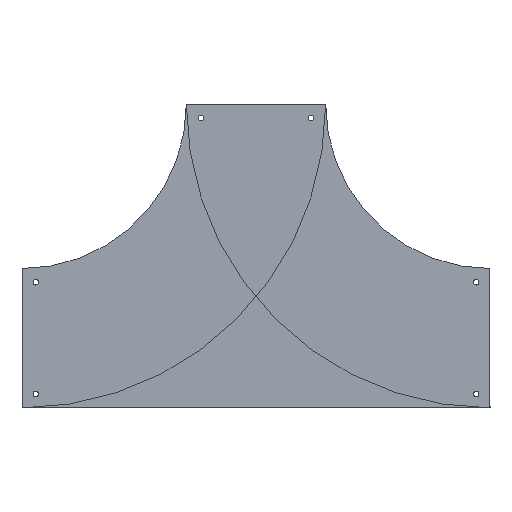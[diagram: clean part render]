
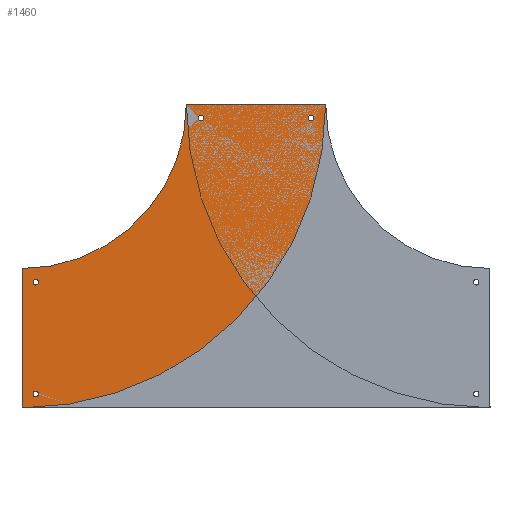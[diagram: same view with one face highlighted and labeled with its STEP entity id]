
A CAD part, top view. The second image highlights one B-rep face of the part: STEP entity #1460.
In plain terms, the highlighted planar face has unit normal (0, 0, 1).
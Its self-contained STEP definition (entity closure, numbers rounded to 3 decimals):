
#89=FACE_BOUND('',#365,.T.);
#90=FACE_BOUND('',#366,.T.);
#91=FACE_BOUND('',#367,.T.);
#92=FACE_BOUND('',#368,.T.);
#149=CIRCLE('',#1604,551.5);
#150=CIRCLE('',#1605,298.5);
#151=CIRCLE('',#1606,5.);
#152=CIRCLE('',#1607,5.);
#153=CIRCLE('',#1608,5.);
#154=CIRCLE('',#1609,5.);
#155=CIRCLE('',#1610,5.);
#156=CIRCLE('',#1611,5.);
#157=CIRCLE('',#1612,5.);
#158=CIRCLE('',#1613,5.);
#268=FACE_OUTER_BOUND('',#364,.T.);
#364=EDGE_LOOP('',(#1224,#1225,#1226,#1227));
#365=EDGE_LOOP('',(#1228,#1229));
#366=EDGE_LOOP('',(#1230,#1231));
#367=EDGE_LOOP('',(#1232,#1233));
#368=EDGE_LOOP('',(#1234,#1235));
#488=LINE('',#2427,#602);
#492=LINE('',#2436,#606);
#602=VECTOR('',#1972,304.8);
#606=VECTOR('',#1978,304.8);
#718=VERTEX_POINT('',#2425);
#719=VERTEX_POINT('',#2426);
#722=VERTEX_POINT('',#2434);
#723=VERTEX_POINT('',#2435);
#726=VERTEX_POINT('',#2445);
#727=VERTEX_POINT('',#2446);
#728=VERTEX_POINT('',#2449);
#729=VERTEX_POINT('',#2450);
#730=VERTEX_POINT('',#2453);
#731=VERTEX_POINT('',#2454);
#732=VERTEX_POINT('',#2457);
#733=VERTEX_POINT('',#2458);
#892=EDGE_CURVE('',#718,#719,#488,.T.);
#896=EDGE_CURVE('',#722,#723,#492,.T.);
#900=EDGE_CURVE('',#718,#723,#149,.T.);
#901=EDGE_CURVE('',#722,#719,#150,.T.);
#902=EDGE_CURVE('',#726,#727,#151,.T.);
#903=EDGE_CURVE('',#727,#726,#152,.T.);
#904=EDGE_CURVE('',#728,#729,#153,.T.);
#905=EDGE_CURVE('',#729,#728,#154,.T.);
#906=EDGE_CURVE('',#730,#731,#155,.T.);
#907=EDGE_CURVE('',#731,#730,#156,.T.);
#908=EDGE_CURVE('',#732,#733,#157,.T.);
#909=EDGE_CURVE('',#733,#732,#158,.T.);
#1224=ORIENTED_EDGE('',*,*,#892,.F.);
#1225=ORIENTED_EDGE('',*,*,#900,.T.);
#1226=ORIENTED_EDGE('',*,*,#896,.F.);
#1227=ORIENTED_EDGE('',*,*,#901,.T.);
#1228=ORIENTED_EDGE('',*,*,#902,.T.);
#1229=ORIENTED_EDGE('',*,*,#903,.T.);
#1230=ORIENTED_EDGE('',*,*,#904,.T.);
#1231=ORIENTED_EDGE('',*,*,#905,.T.);
#1232=ORIENTED_EDGE('',*,*,#906,.T.);
#1233=ORIENTED_EDGE('',*,*,#907,.T.);
#1234=ORIENTED_EDGE('',*,*,#908,.T.);
#1235=ORIENTED_EDGE('',*,*,#909,.T.);
#1396=PLANE('',#1603);
#1460=ADVANCED_FACE('',(#268,#89,#90,#91,#92),#1396,.T.);
#1603=AXIS2_PLACEMENT_3D('',#2442,#1982,#1983);
#1604=AXIS2_PLACEMENT_3D('',#2443,#1984,#1985);
#1605=AXIS2_PLACEMENT_3D('',#2444,#1986,#1987);
#1606=AXIS2_PLACEMENT_3D('',#2447,#1988,#1989);
#1607=AXIS2_PLACEMENT_3D('',#2448,#1990,#1991);
#1608=AXIS2_PLACEMENT_3D('',#2451,#1992,#1993);
#1609=AXIS2_PLACEMENT_3D('',#2452,#1994,#1995);
#1610=AXIS2_PLACEMENT_3D('',#2455,#1996,#1997);
#1611=AXIS2_PLACEMENT_3D('',#2456,#1998,#1999);
#1612=AXIS2_PLACEMENT_3D('',#2459,#2000,#2001);
#1613=AXIS2_PLACEMENT_3D('',#2460,#2002,#2003);
#1972=DIRECTION('',(0.,1.,0.));
#1978=DIRECTION('',(1.,0.,0.));
#1982=DIRECTION('center_axis',(0.,0.,1.));
#1983=DIRECTION('ref_axis',(0.,-1.,0.));
#1984=DIRECTION('center_axis',(0.,0.,1.));
#1985=DIRECTION('ref_axis',(0.,-1.,0.));
#1986=DIRECTION('center_axis',(0.,0.,-1.));
#1987=DIRECTION('ref_axis',(0.,-1.,0.));
#1988=DIRECTION('center_axis',(0.,0.,-1.));
#1989=DIRECTION('ref_axis',(1.,0.,0.));
#1990=DIRECTION('center_axis',(0.,0.,-1.));
#1991=DIRECTION('ref_axis',(1.,0.,0.));
#1992=DIRECTION('center_axis',(0.,0.,-1.));
#1993=DIRECTION('ref_axis',(1.,0.,0.));
#1994=DIRECTION('center_axis',(0.,0.,-1.));
#1995=DIRECTION('ref_axis',(1.,0.,0.));
#1996=DIRECTION('center_axis',(0.,0.,-1.));
#1997=DIRECTION('ref_axis',(1.,0.,0.));
#1998=DIRECTION('center_axis',(0.,0.,-1.));
#1999=DIRECTION('ref_axis',(1.,0.,0.));
#2000=DIRECTION('center_axis',(0.,0.,-1.));
#2001=DIRECTION('ref_axis',(1.,0.,0.));
#2002=DIRECTION('center_axis',(0.,0.,-1.));
#2003=DIRECTION('ref_axis',(1.,0.,0.));
#2425=CARTESIAN_POINT('',(-425.,-126.5,1.5));
#2426=CARTESIAN_POINT('',(-425.,126.5,1.5));
#2427=CARTESIAN_POINT('',(-425.,-126.5,1.5));
#2434=CARTESIAN_POINT('',(-126.5,425.,1.5));
#2435=CARTESIAN_POINT('',(126.5,425.,1.5));
#2436=CARTESIAN_POINT('',(-126.5,425.,1.5));
#2442=CARTESIAN_POINT('Origin',(-425.,425.,1.5));
#2443=CARTESIAN_POINT('Origin',(-425.,425.,1.5));
#2444=CARTESIAN_POINT('Origin',(-425.,425.,1.5));
#2445=CARTESIAN_POINT('',(-395.,-101.5,1.5));
#2446=CARTESIAN_POINT('',(-405.,-101.5,1.5));
#2447=CARTESIAN_POINT('Origin',(-400.,-101.5,1.5));
#2448=CARTESIAN_POINT('Origin',(-400.,-101.5,1.5));
#2449=CARTESIAN_POINT('',(-395.,101.5,1.5));
#2450=CARTESIAN_POINT('',(-405.,101.5,1.5));
#2451=CARTESIAN_POINT('Origin',(-400.,101.5,1.5));
#2452=CARTESIAN_POINT('Origin',(-400.,101.5,1.5));
#2453=CARTESIAN_POINT('',(-95.,400.,1.5));
#2454=CARTESIAN_POINT('',(-105.,400.,1.5));
#2455=CARTESIAN_POINT('Origin',(-100.,400.,1.5));
#2456=CARTESIAN_POINT('Origin',(-100.,400.,1.5));
#2457=CARTESIAN_POINT('',(105.,400.,1.5));
#2458=CARTESIAN_POINT('',(95.,400.,1.5));
#2459=CARTESIAN_POINT('Origin',(100.,400.,1.5));
#2460=CARTESIAN_POINT('Origin',(100.,400.,1.5));
